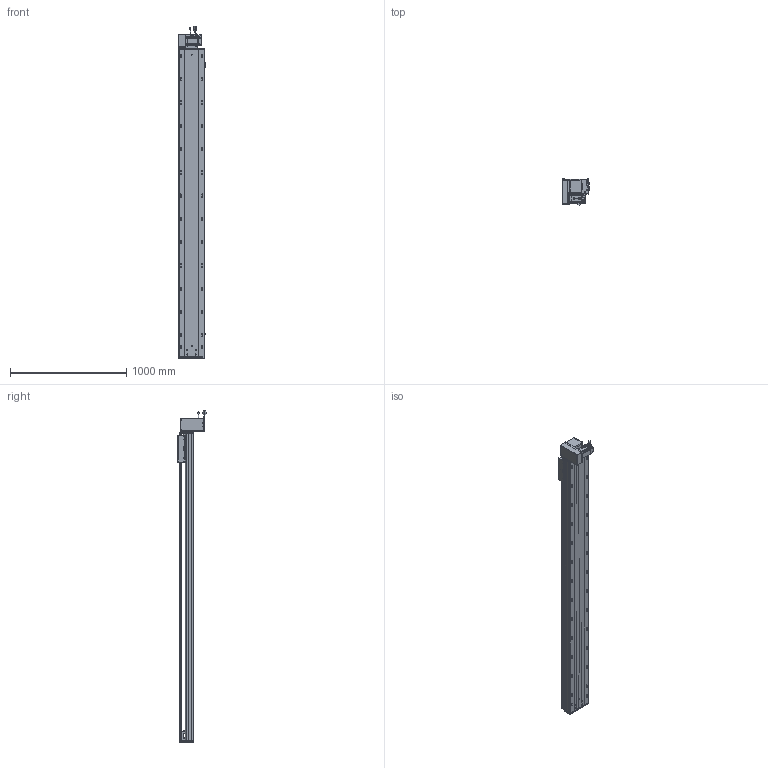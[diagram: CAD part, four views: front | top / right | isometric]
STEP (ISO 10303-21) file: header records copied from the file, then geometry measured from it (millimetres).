
FILE_DESCRIPTION (( 'STEP AP203' ), '1' );
FILE_NAME ('RY220-T-300-DL.SLDASM_2300.step', '2022-07-25T07:54:31', ( '' ), ( '' ), 'SwSTEP 2.0', 'SolidWorks 2016', '' );
FILE_SCHEMA (( 'CONFIG_CONTROL_DESIGN' ));
Length unit declared in the file: millimetre
Products named in the file (14): 覜茼ん672; RY220翋肮祭謫釱; 110A-T-肮祭謫釱傷裔; 怢湛750W_ECMA-CX0807ES; RY220圉猾敕々湍臏賑輸; RY220-同步轮副支撑座6304×2; RY220-T-湍謫欶(鍼踢); RY220-T-300-奻裔啣_2300; 滅袉蝶18-15; RY220-俋离672覜茼んえ; RY220-T-300-DL.SLDASM_2300; RY220-T菁釱-300_2300; RY220翋肮祭謫裔啣; RY220-T-蛌殏萇儂假蚾啣(750W)
Assembly tree (18 placements, depth 2):
  RY220-T-300-DL.SLDASM_2300
    RY220-T菁釱-300_2300
    RY220翋肮祭謫釱
    覜茼ん672  x3
    RY220圉猾敕々湍臏賑輸
    RY220-T-300-奻裔啣_2300
    RY220-俋离672覜茼んえ
    滅袉蝶18-15  x3
    RY220翋肮祭謫裔啣  x2
    110A-T-肮祭謫釱傷裔
    怢湛750W_ECMA-CX0807ES
    RY220-T-湍謫欶(鍼踢)
    RY220-T-蛌殏萇儂假蚾啣(750W)
    RY220-同步轮副支撑座6304×2
Bounding box: 239.7 x 240.74 x 2853.27 mm (x, y, z)
Volume: 20671875.5 mm3; surface area: 6322714.6 mm2
Topology: 19 solids, 19 shells, 2890 faces, 7991 edges, 5024 vertices
Faces by surface type: cylinder 1406, plane 1069, cone 333, bspline 56, sphere 16, torus 10
Entity records: 96371 total; most frequent: CARTESIAN_POINT 27289, ORIENTED_EDGE 14298, DIRECTION 13720, EDGE_CURVE 7149, AXIS2_PLACEMENT_3D 4924, VERTEX_POINT 4648, VECTOR 3872, LINE 3872
